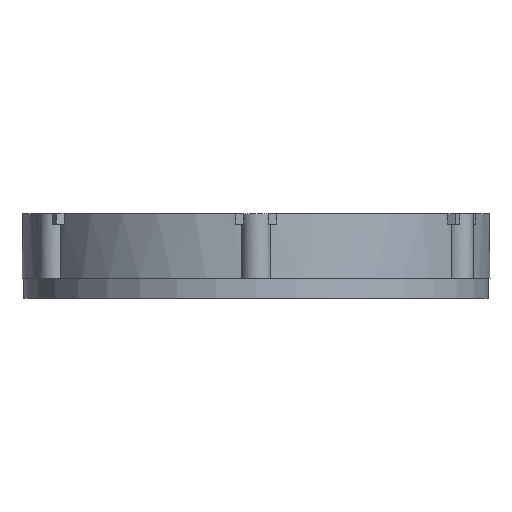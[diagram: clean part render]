
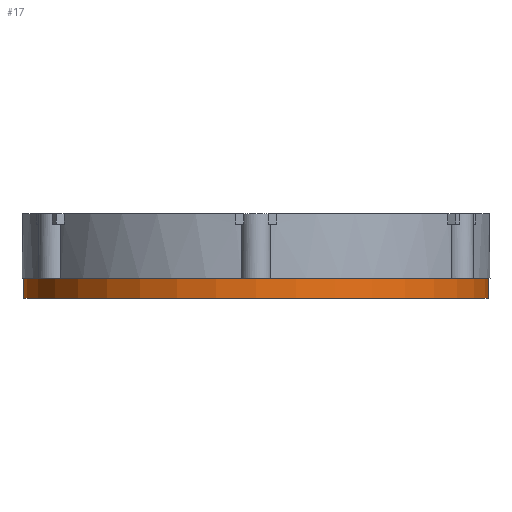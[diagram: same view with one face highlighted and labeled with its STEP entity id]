
A CAD part, left-side view. The second image highlights one B-rep face of the part: STEP entity #17.
In plain terms, the highlighted cylindrical face has radius 28.8 mm (diameter 57.6 mm), a full revolution.
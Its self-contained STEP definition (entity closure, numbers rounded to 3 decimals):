
#17 = ADVANCED_FACE('',(#18),#32,.T.);
#18 = FACE_BOUND('',#19,.F.);
#19 = EDGE_LOOP('',(#20,#50,#77,#78));
#20 = ORIENTED_EDGE('',*,*,#21,.T.);
#21 = EDGE_CURVE('',#22,#24,#26,.T.);
#22 = VERTEX_POINT('',#23);
#23 = CARTESIAN_POINT('',(28.8,0.,8.6));
#24 = VERTEX_POINT('',#25);
#25 = CARTESIAN_POINT('',(28.8,0.,6.1));
#26 = SEAM_CURVE('',#27,(#31,#43),.PCURVE_S1.);
#27 = LINE('',#28,#29);
#28 = CARTESIAN_POINT('',(28.8,0.,15.3));
#29 = VECTOR('',#30,1.);
#30 = DIRECTION('',(0.,0.,-1.));
#31 = PCURVE('',#32,#37);
#32 = CYLINDRICAL_SURFACE('',#33,28.8);
#33 = AXIS2_PLACEMENT_3D('',#34,#35,#36);
#34 = CARTESIAN_POINT('',(0.,0.,6.1));
#35 = DIRECTION('',(-0.,-0.,-1.));
#36 = DIRECTION('',(1.,0.,0.));
#37 = DEFINITIONAL_REPRESENTATION('',(#38),#42);
#38 = LINE('',#39,#40);
#39 = CARTESIAN_POINT('',(-6.283,-9.2));
#40 = VECTOR('',#41,1.);
#41 = DIRECTION('',(0.,1.));
#42 = ( GEOMETRIC_REPRESENTATION_CONTEXT(2) 
PARAMETRIC_REPRESENTATION_CONTEXT() REPRESENTATION_CONTEXT('2D SPACE',''
  ) );
#43 = PCURVE('',#32,#44);
#44 = DEFINITIONAL_REPRESENTATION('',(#45),#49);
#45 = LINE('',#46,#47);
#46 = CARTESIAN_POINT('',(-0.,-9.2));
#47 = VECTOR('',#48,1.);
#48 = DIRECTION('',(0.,1.));
#49 = ( GEOMETRIC_REPRESENTATION_CONTEXT(2) 
PARAMETRIC_REPRESENTATION_CONTEXT() REPRESENTATION_CONTEXT('2D SPACE',''
  ) );
#50 = ORIENTED_EDGE('',*,*,#51,.F.);
#51 = EDGE_CURVE('',#24,#24,#52,.T.);
#52 = SURFACE_CURVE('',#53,(#58,#65),.PCURVE_S1.);
#53 = CIRCLE('',#54,28.8);
#54 = AXIS2_PLACEMENT_3D('',#55,#56,#57);
#55 = CARTESIAN_POINT('',(0.,0.,6.1));
#56 = DIRECTION('',(0.,0.,1.));
#57 = DIRECTION('',(1.,0.,0.));
#58 = PCURVE('',#32,#59);
#59 = DEFINITIONAL_REPRESENTATION('',(#60),#64);
#60 = LINE('',#61,#62);
#61 = CARTESIAN_POINT('',(-0.,0.));
#62 = VECTOR('',#63,1.);
#63 = DIRECTION('',(-1.,0.));
#64 = ( GEOMETRIC_REPRESENTATION_CONTEXT(2) 
PARAMETRIC_REPRESENTATION_CONTEXT() REPRESENTATION_CONTEXT('2D SPACE',''
  ) );
#65 = PCURVE('',#66,#71);
#66 = PLANE('',#67);
#67 = AXIS2_PLACEMENT_3D('',#68,#69,#70);
#68 = CARTESIAN_POINT('',(0.,0.,6.1));
#69 = DIRECTION('',(0.,0.,1.));
#70 = DIRECTION('',(1.,0.,-0.));
#71 = DEFINITIONAL_REPRESENTATION('',(#72),#76);
#72 = CIRCLE('',#73,28.8);
#73 = AXIS2_PLACEMENT_2D('',#74,#75);
#74 = CARTESIAN_POINT('',(0.,0.));
#75 = DIRECTION('',(1.,0.));
#76 = ( GEOMETRIC_REPRESENTATION_CONTEXT(2) 
PARAMETRIC_REPRESENTATION_CONTEXT() REPRESENTATION_CONTEXT('2D SPACE',''
  ) );
#77 = ORIENTED_EDGE('',*,*,#21,.F.);
#78 = ORIENTED_EDGE('',*,*,#79,.F.);
#79 = EDGE_CURVE('',#22,#22,#80,.T.);
#80 = SURFACE_CURVE('',#81,(#86,#93),.PCURVE_S1.);
#81 = CIRCLE('',#82,28.8);
#82 = AXIS2_PLACEMENT_3D('',#83,#84,#85);
#83 = CARTESIAN_POINT('',(0.,0.,8.6));
#84 = DIRECTION('',(0.,0.,-1.));
#85 = DIRECTION('',(1.,0.,0.));
#86 = PCURVE('',#32,#87);
#87 = DEFINITIONAL_REPRESENTATION('',(#88),#92);
#88 = LINE('',#89,#90);
#89 = CARTESIAN_POINT('',(-6.283,-2.5));
#90 = VECTOR('',#91,1.);
#91 = DIRECTION('',(1.,-0.));
#92 = ( GEOMETRIC_REPRESENTATION_CONTEXT(2) 
PARAMETRIC_REPRESENTATION_CONTEXT() REPRESENTATION_CONTEXT('2D SPACE',''
  ) );
#93 = PCURVE('',#94,#99);
#94 = PLANE('',#95);
#95 = AXIS2_PLACEMENT_3D('',#96,#97,#98);
#96 = CARTESIAN_POINT('',(0.,0.,8.6));
#97 = DIRECTION('',(0.,0.,1.));
#98 = DIRECTION('',(1.,0.,-0.));
#99 = DEFINITIONAL_REPRESENTATION('',(#100),#108);
#100 = ( BOUNDED_CURVE() B_SPLINE_CURVE(2,(#101,#102,#103,#104,#105,#106
,#107),.UNSPECIFIED.,.T.,.F.) B_SPLINE_CURVE_WITH_KNOTS((1,2,2,2,2,1),(
    -2.094,0.,2.094,4.189,6.283,
8.378),.UNSPECIFIED.) CURVE() GEOMETRIC_REPRESENTATION_ITEM() 
RATIONAL_B_SPLINE_CURVE((1.,0.5,1.,0.5,1.,0.5,1.)) REPRESENTATION_ITEM(
  '') );
#101 = CARTESIAN_POINT('',(28.8,0.));
#102 = CARTESIAN_POINT('',(28.8,-49.883));
#103 = CARTESIAN_POINT('',(-14.4,-24.942));
#104 = CARTESIAN_POINT('',(-57.6,0.));
#105 = CARTESIAN_POINT('',(-14.4,24.942));
#106 = CARTESIAN_POINT('',(28.8,49.883));
#107 = CARTESIAN_POINT('',(28.8,0.));
#108 = ( GEOMETRIC_REPRESENTATION_CONTEXT(2) 
PARAMETRIC_REPRESENTATION_CONTEXT() REPRESENTATION_CONTEXT('2D SPACE',''
  ) );
